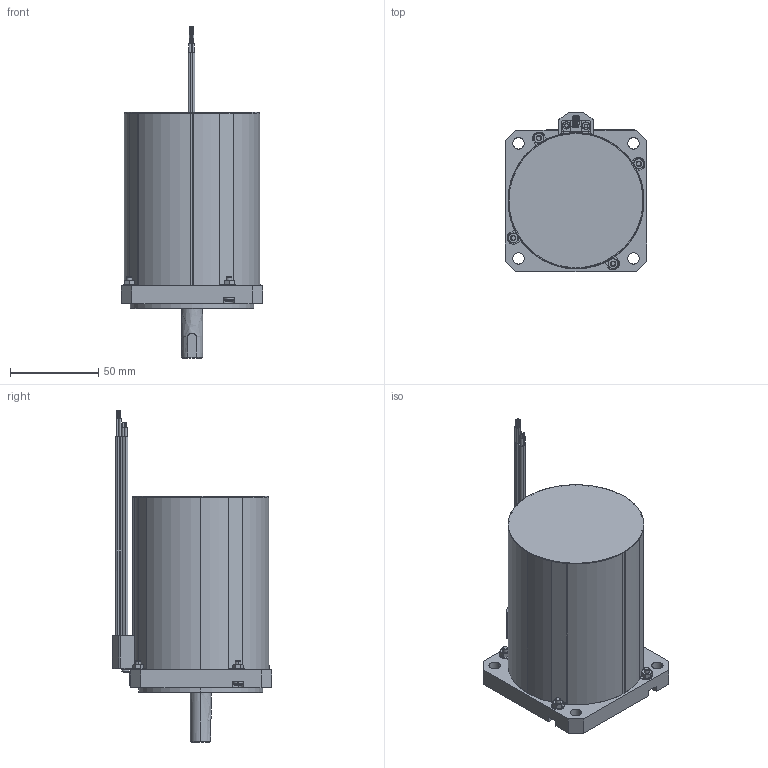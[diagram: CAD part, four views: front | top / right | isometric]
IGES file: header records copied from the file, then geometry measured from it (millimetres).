
Start section: SolidWorks IGES file using analytic representation for surfaces
Bounding box: 80 x 90.05 x 187.7 mm (x, y, z)
Surface area: 106598 mm2 (no closed solid volume)
Topology: 0 solids, 0 shells, 845 faces, 10814 edges, 10807 vertices
Faces by surface type: bspline 435, revolution 410
